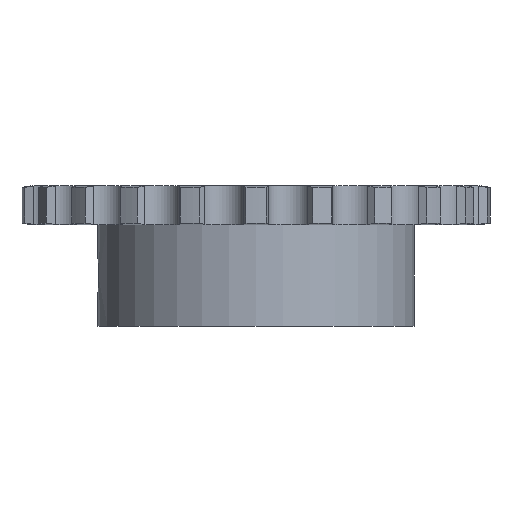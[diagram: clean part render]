
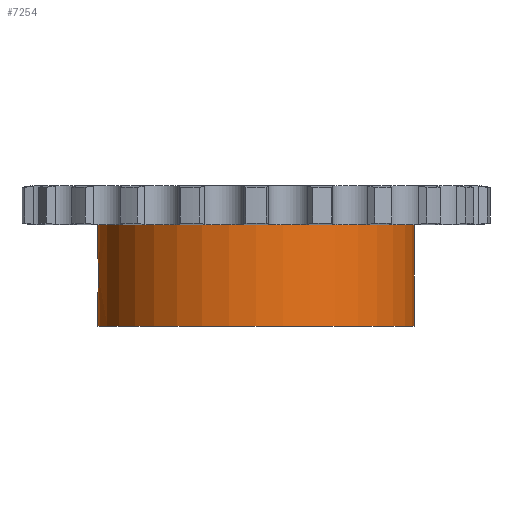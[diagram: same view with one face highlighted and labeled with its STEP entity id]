
A CAD part, front view. The second image highlights one B-rep face of the part: STEP entity #7254.
In plain terms, the highlighted cylindrical face has radius 45 mm (diameter 90 mm), a partial arc.
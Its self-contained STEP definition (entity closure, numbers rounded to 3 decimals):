
#1227=CARTESIAN_POINT('',(0.,0.,-5.55));
#1228=DIRECTION('',(0.,0.,1.));
#1229=DIRECTION('',(-1.,0.,0.));
#1230=AXIS2_PLACEMENT_3D('',#1227,#1228,#1229);
#3580=CARTESIAN_POINT('',(-45.,0.,
-15.));
#3605=DIRECTION('',(0.,0.,1.));
#3606=VECTOR('',#3605,28.9);
#3607=CARTESIAN_POINT('',(45.,0.,-34.45));
#3608=LINE('',#3607,#3606);
#3732=CARTESIAN_POINT('',(-45.,0.,
-15.));
#3733=CARTESIAN_POINT('',(-45.,-0.183,
-15.));
#3734=CARTESIAN_POINT('',(-44.998,-0.577,
-15.021));
#3735=CARTESIAN_POINT('',(-44.986,-1.179,
-15.123));
#3736=CARTESIAN_POINT('',(-44.966,-1.792,
-15.307));
#3737=CARTESIAN_POINT('',(-44.938,-2.375,
-15.564));
#3738=CARTESIAN_POINT('',(-44.906,-2.92,
-15.891));
#3739=CARTESIAN_POINT('',(-44.871,-3.417,
-16.28));
#3740=CARTESIAN_POINT('',(-44.835,-3.86,
-16.725));
#3741=CARTESIAN_POINT('',(-44.8,-4.243,
-17.221));
#3742=CARTESIAN_POINT('',(-44.769,-4.561,
-17.76));
#3743=CARTESIAN_POINT('',(-44.743,-4.808,
-18.333));
#3744=CARTESIAN_POINT('',(-44.724,-4.979,
-18.927));
#3745=CARTESIAN_POINT('',(-44.714,-5.068,
-19.487));
#3746=CARTESIAN_POINT('',(-44.712,-5.085,
-19.844));
#3747=CARTESIAN_POINT('',(-44.712,-5.085,
-20.));
#3752=DIRECTION('',(0.,0.,1.));
#3753=VECTOR('',#3752,9.45);
#3754=CARTESIAN_POINT('',(-45.,0.,
-15.));
#3755=LINE('',#3754,#3753);
#3759=DIRECTION('',(0.,0.,1.));
#3760=VECTOR('',#3759,9.45);
#3761=CARTESIAN_POINT('',(-45.,0.,-34.45));
#3762=LINE('',#3761,#3760);
#3766=CARTESIAN_POINT('',(-44.712,-5.085,
-20.));
#3767=CARTESIAN_POINT('',(-44.712,-5.085,
-20.167));
#3768=CARTESIAN_POINT('',(-44.714,-5.066,
-20.535));
#3769=CARTESIAN_POINT('',(-44.725,-4.972,
-21.104));
#3770=CARTESIAN_POINT('',(-44.744,-4.797,
-21.695));
#3771=CARTESIAN_POINT('',(-44.77,-4.548,
-22.264));
#3772=CARTESIAN_POINT('',(-44.801,-4.229,
-22.799));
#3773=CARTESIAN_POINT('',(-44.836,-3.846,
-23.29));
#3774=CARTESIAN_POINT('',(-44.872,-3.403,
-23.732));
#3775=CARTESIAN_POINT('',(-44.907,-2.907,
-24.118));
#3776=CARTESIAN_POINT('',(-44.939,-2.365,
-24.441));
#3777=CARTESIAN_POINT('',(-44.966,-1.783,
-24.696));
#3778=CARTESIAN_POINT('',(-44.986,-1.173,
-24.879));
#3779=CARTESIAN_POINT('',(-44.998,-0.574,
-24.979));
#3780=CARTESIAN_POINT('',(-45.,-0.182,
-25.));
#3781=CARTESIAN_POINT('',(-45.,0.,
-25.));
#3794=CARTESIAN_POINT('',(0.,0.,-34.45));
#3795=DIRECTION('',(0.,0.,-1.));
#3796=DIRECTION('',(1.,0.,0.));
#3797=AXIS2_PLACEMENT_3D('',#3794,#3795,#3796);
#4199=CARTESIAN_POINT('',(-45.,0.,-34.45));
#4200=CARTESIAN_POINT('',(45.,0.,-34.45));
#4201=VERTEX_POINT('',#4199);
#4202=VERTEX_POINT('',#4200);
#4203=CARTESIAN_POINT('',(45.,0.,-5.55));
#4204=VERTEX_POINT('',#4203);
#4205=CARTESIAN_POINT('',(-45.,0.,-5.55));
#4206=VERTEX_POINT('',#4205);
#4452=VERTEX_POINT('',#3580);
#4455=VERTEX_POINT('',#3747);
#4457=VERTEX_POINT('',#3781);
#7238=CARTESIAN_POINT('',(0.,0.,5.55));
#7239=DIRECTION('',(0.,0.,1.));
#7240=DIRECTION('',(1.,0.,0.));
#7241=AXIS2_PLACEMENT_3D('',#7238,#7239,#7240);
#7242=CYLINDRICAL_SURFACE('',#7241,45.);
#7243=ORIENTED_EDGE('',*,*,#7228,.F.);
#7244=ORIENTED_EDGE('',*,*,#6783,.T.);
#7245=ORIENTED_EDGE('',*,*,#5726,.T.);
#7246=ORIENTED_EDGE('',*,*,#6780,.F.);
#7248=ORIENTED_EDGE('',*,*,#7247,.T.);
#7249=ORIENTED_EDGE('',*,*,#6776,.T.);
#7251=ORIENTED_EDGE('',*,*,#7250,.F.);
#7252=EDGE_LOOP('',(#7243,#7244,#7245,#7246,#7248,#7249,#7251));
#7253=FACE_OUTER_BOUND('',#7252,.F.);
#7254=ADVANCED_FACE('',(#7253),#7242,.T.);
#1231=CIRCLE('',#1230,45.);
#3748=B_SPLINE_CURVE_WITH_KNOTS('',3,(#3732,#3733,#3734,#3735,#3736,#3737,#3738,
#3739,#3740,#3741,#3742,#3743,#3744,#3745,#3746,#3747),.UNSPECIFIED.,.F.,.F.,(4,
1,1,1,1,1,1,1,1,1,1,1,1,4),(0.,0.069,0.148,
0.227,0.306,0.385,0.464,
0.543,0.622,0.701,0.78,
0.859,0.938,1.),.UNSPECIFIED.);
#3782=B_SPLINE_CURVE_WITH_KNOTS('',3,(#3766,#3767,#3768,#3769,#3770,#3771,#3772,
#3773,#3774,#3775,#3776,#3777,#3778,#3779,#3780,#3781),.UNSPECIFIED.,.F.,.F.,(4,
1,1,1,1,1,1,1,1,1,1,1,1,4),(0.,0.067,0.145,
0.224,0.302,0.381,0.46,
0.538,0.617,0.696,0.774,
0.853,0.932,1.),.UNSPECIFIED.);
#3798=CIRCLE('',#3797,45.);
#5726=EDGE_CURVE('',#4206,#4204,#1231,.T.);
#6776=EDGE_CURVE('',#4201,#4457,#3762,.T.);
#6780=EDGE_CURVE('',#4202,#4204,#3608,.T.);
#6783=EDGE_CURVE('',#4452,#4206,#3755,.T.);
#7228=EDGE_CURVE('',#4452,#4455,#3748,.T.);
#7247=EDGE_CURVE('',#4202,#4201,#3798,.T.);
#7250=EDGE_CURVE('',#4455,#4457,#3782,.T.);
